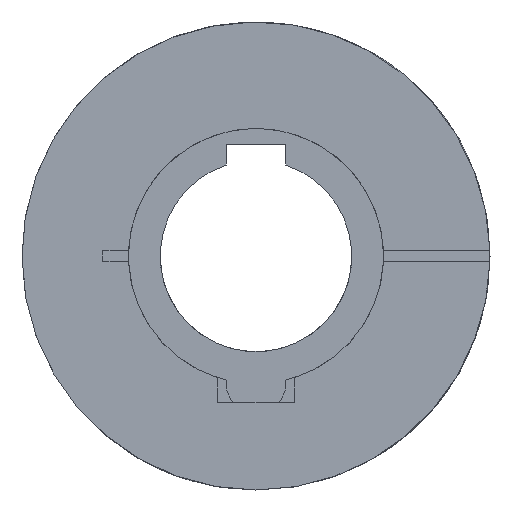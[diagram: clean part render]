
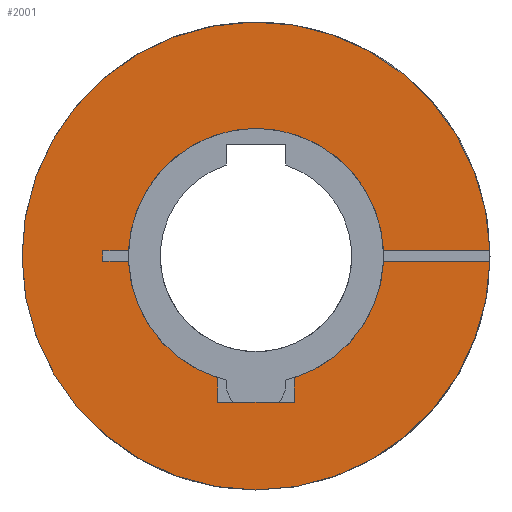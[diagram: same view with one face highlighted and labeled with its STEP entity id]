
A CAD part, left-side view. The second image highlights one B-rep face of the part: STEP entity #2001.
In plain terms, the highlighted planar face has unit normal (-1, 0, 0).
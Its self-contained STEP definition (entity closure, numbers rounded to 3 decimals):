
#92=PLANE('',#2323);
#259=FACE_OUTER_BOUND('',#386,.T.);
#386=EDGE_LOOP('',(#1728,#1729,#1730,#1731,#1732,#1733,#1734,#1735,#1736,
#1737,#1738,#1739,#1740));
#519=LINE('',#3756,#637);
#522=LINE('',#3762,#640);
#523=LINE('',#3764,#641);
#525=LINE('',#3767,#643);
#527=LINE('',#3771,#645);
#530=LINE('',#3777,#648);
#531=LINE('',#3778,#649);
#532=LINE('',#3779,#650);
#637=VECTOR('',#2878,1.);
#640=VECTOR('',#2883,1.);
#641=VECTOR('',#2886,1.);
#643=VECTOR('',#2890,43.051);
#645=VECTOR('',#2894,24.065);
#648=VECTOR('',#2899,24.065);
#649=VECTOR('',#2900,2.5);
#650=VECTOR('',#2901,43.051);
#796=CIRCLE('',#2305,55.);
#798=CIRCLE('',#2307,55.);
#802=CIRCLE('',#2312,30.);
#804=CIRCLE('',#2314,30.);
#805=CIRCLE('',#2316,30.);
#981=VERTEX_POINT('',#3708);
#982=VERTEX_POINT('',#3709);
#984=VERTEX_POINT('',#3714);
#991=VERTEX_POINT('',#3729);
#992=VERTEX_POINT('',#3731);
#995=VERTEX_POINT('',#3737);
#996=VERTEX_POINT('',#3739);
#997=VERTEX_POINT('',#3743);
#998=VERTEX_POINT('',#3744);
#1002=VERTEX_POINT('',#3754);
#1004=VERTEX_POINT('',#3760);
#1005=VERTEX_POINT('',#3770);
#1007=VERTEX_POINT('',#3776);
#1242=EDGE_CURVE('',#981,#982,#796,.T.);
#1245=EDGE_CURVE('',#982,#984,#798,.T.);
#1253=EDGE_CURVE('',#992,#991,#802,.T.);
#1257=EDGE_CURVE('',#996,#995,#804,.T.);
#1259=EDGE_CURVE('',#997,#998,#805,.T.);
#1265=EDGE_CURVE('',#995,#1002,#519,.T.);
#1268=EDGE_CURVE('',#1002,#1004,#522,.T.);
#1269=EDGE_CURVE('',#1004,#992,#523,.T.);
#1271=EDGE_CURVE('',#996,#981,#525,.T.);
#1273=EDGE_CURVE('',#997,#1005,#527,.T.);
#1276=EDGE_CURVE('',#1007,#991,#530,.T.);
#1277=EDGE_CURVE('',#1005,#1007,#531,.T.);
#1278=EDGE_CURVE('',#984,#998,#532,.T.);
#1728=ORIENTED_EDGE('',*,*,#1257,.T.);
#1729=ORIENTED_EDGE('',*,*,#1265,.T.);
#1730=ORIENTED_EDGE('',*,*,#1268,.T.);
#1731=ORIENTED_EDGE('',*,*,#1269,.T.);
#1732=ORIENTED_EDGE('',*,*,#1253,.T.);
#1733=ORIENTED_EDGE('',*,*,#1276,.F.);
#1734=ORIENTED_EDGE('',*,*,#1277,.F.);
#1735=ORIENTED_EDGE('',*,*,#1273,.F.);
#1736=ORIENTED_EDGE('',*,*,#1259,.T.);
#1737=ORIENTED_EDGE('',*,*,#1278,.F.);
#1738=ORIENTED_EDGE('',*,*,#1245,.F.);
#1739=ORIENTED_EDGE('',*,*,#1242,.F.);
#1740=ORIENTED_EDGE('',*,*,#1271,.F.);
#2001=ADVANCED_FACE('',(#259),#92,.T.);
#2305=AXIS2_PLACEMENT_3D('',#3710,#2838,#2839);
#2307=AXIS2_PLACEMENT_3D('',#3715,#2843,#2844);
#2312=AXIS2_PLACEMENT_3D('',#3732,#2857,#2858);
#2314=AXIS2_PLACEMENT_3D('',#3740,#2863,#2864);
#2316=AXIS2_PLACEMENT_3D('',#3745,#2868,#2869);
#2323=AXIS2_PLACEMENT_3D('',#3775,#2897,#2898);
#2838=DIRECTION('center_axis',(1.,0.,0.));
#2839=DIRECTION('ref_axis',(0.,0.,1.));
#2843=DIRECTION('center_axis',(1.,0.,0.));
#2844=DIRECTION('ref_axis',(0.,0.,1.));
#2857=DIRECTION('center_axis',(1.,0.,0.));
#2858=DIRECTION('ref_axis',(0.,0.,-1.));
#2863=DIRECTION('center_axis',(1.,0.,0.));
#2864=DIRECTION('ref_axis',(0.,0.,-1.));
#2868=DIRECTION('center_axis',(1.,0.,0.));
#2869=DIRECTION('ref_axis',(0.,0.,-1.));
#2878=DIRECTION('',(0.,0.,-1.));
#2883=DIRECTION('',(0.,1.,0.));
#2886=DIRECTION('',(0.,0.,1.));
#2890=DIRECTION('',(0.,-1.,0.));
#2894=DIRECTION('',(0.,1.,0.));
#2897=DIRECTION('center_axis',(-1.,0.,0.));
#2898=DIRECTION('ref_axis',(0.,-1.,0.));
#2899=DIRECTION('',(0.,-1.,0.));
#2900=DIRECTION('',(0.,0.,-1.));
#2901=DIRECTION('',(0.,1.,0.));
#3708=CARTESIAN_POINT('',(0.,-54.986,-1.25));
#3709=CARTESIAN_POINT('',(0.,0.,-55.));
#3710=CARTESIAN_POINT('Origin',(0.,0.,0.));
#3714=CARTESIAN_POINT('',(0.,-54.986,1.25));
#3715=CARTESIAN_POINT('Origin',(0.,0.,0.));
#3729=CARTESIAN_POINT('',(0.,29.974,-1.25));
#3731=CARTESIAN_POINT('',(0.,9.,-28.618));
#3732=CARTESIAN_POINT('Origin',(0.,0.,0.));
#3737=CARTESIAN_POINT('',(0.,-9.,-28.618));
#3739=CARTESIAN_POINT('',(0.,-29.974,-1.25));
#3740=CARTESIAN_POINT('Origin',(0.,0.,0.));
#3743=CARTESIAN_POINT('',(0.,29.974,1.25));
#3744=CARTESIAN_POINT('',(0.,-29.974,1.25));
#3745=CARTESIAN_POINT('Origin',(0.,0.,0.));
#3754=CARTESIAN_POINT('',(0.,-9.,-34.4));
#3756=CARTESIAN_POINT('',(0.,-9.,-8.6));
#3760=CARTESIAN_POINT('',(0.,9.,-34.4));
#3762=CARTESIAN_POINT('',(0.,0.,-34.4));
#3764=CARTESIAN_POINT('',(0.,9.,-8.6));
#3767=CARTESIAN_POINT('',(0.,-11.935,-1.25));
#3770=CARTESIAN_POINT('',(0.,36.,1.25));
#3771=CARTESIAN_POINT('',(0.,11.935,1.25));
#3775=CARTESIAN_POINT('Origin',(0.,0.,0.));
#3776=CARTESIAN_POINT('',(0.,36.,-1.25));
#3777=CARTESIAN_POINT('',(0.,36.,-1.25));
#3778=CARTESIAN_POINT('',(0.,36.,1.25));
#3779=CARTESIAN_POINT('',(0.,-54.986,1.25));
